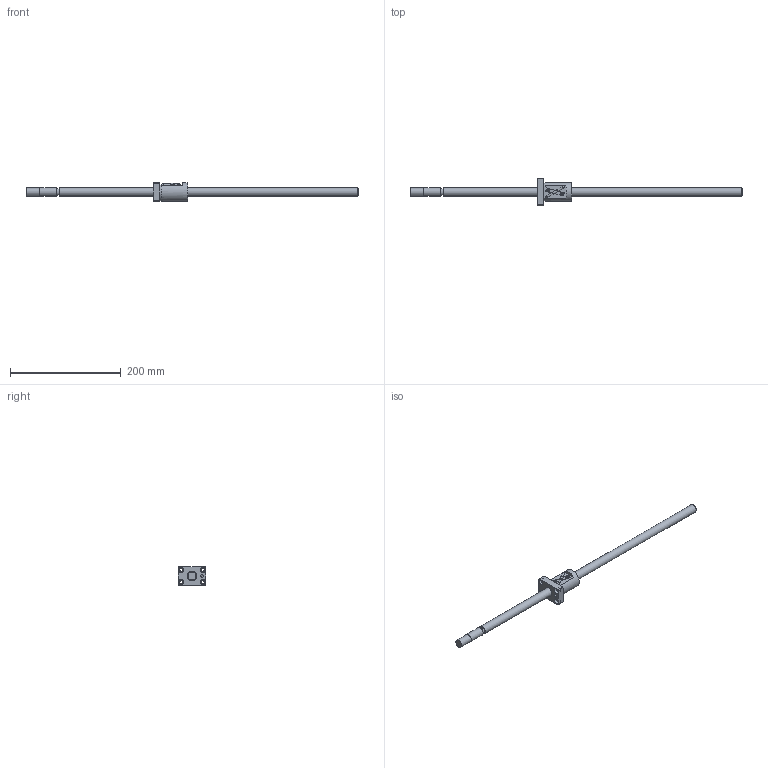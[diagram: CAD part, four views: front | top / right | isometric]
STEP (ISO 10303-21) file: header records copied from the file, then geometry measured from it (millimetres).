
FILE_DESCRIPTION (( 'STEP AP214' ), '1' );
FILE_NAME ('KBS(C)1520-600.STEP', '2021-07-05T02:16:35', ( '' ), ( '' ), 'SwSTEP 2.0', 'SolidWorks 2019', '' );
FILE_SCHEMA (( 'AUTOMOTIVE_DESIGN' ));
Length unit declared in the file: millimetre
Products named in the file (3): KBS1520-600; KBS(C)1520-600; KBS1520
Assembly tree (2 placements, depth 2):
  KBS(C)1520-600
    KBS1520-600
    KBS1520
Bounding box: 600 x 50 x 34 mm (x, y, z)
Volume: 154341.5 mm3; surface area: 43595.3 mm2
Topology: 2 solids, 2 shells, 103 faces, 259 edges, 171 vertices
Faces by surface type: plane 55, cylinder 40, cone 4, torus 4
Full cylindrical faces by diameter (mm): 3.2 x1, 5 x1, 5.5 x4, 5.6 x2, 9.5 x4, 12.5 x1, 14.5 x1, 15 x3, 17 x2, 34 x1
Entity records: 3297 total; most frequent: CARTESIAN_POINT 862, DIRECTION 464, ORIENTED_EDGE 448, EDGE_CURVE 224, AXIS2_PLACEMENT_3D 176, VERTEX_POINT 164, EDGE_LOOP 158, FACE_OUTER_BOUND 127
